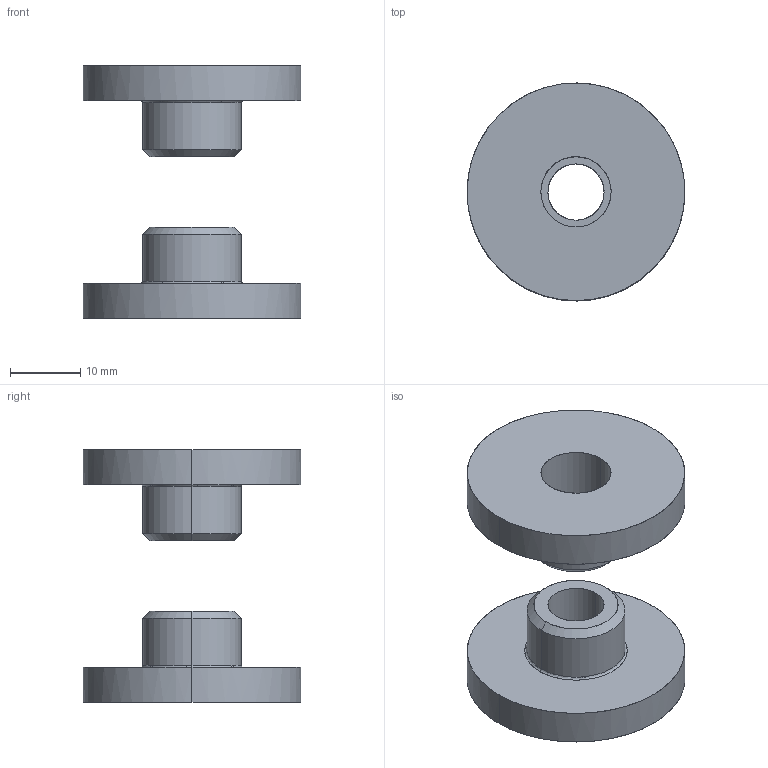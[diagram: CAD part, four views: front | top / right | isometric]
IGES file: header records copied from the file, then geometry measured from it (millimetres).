
Global section: file name: E:\UnigraphicsGraphicData\MISUMI_PRESS-PARTS\IGES\3d_wunt30-13_00806_r00.igs; native system: NX V5.0; preprocessor: UGS NX IGES V5.0; author: MISUMI; date: 20110105.163520; units: millimetre
Bounding box: 31 x 31 x 36 mm (x, y, z)
Surface area: 5108.2 mm2 (no closed solid volume)
Topology: 0 solids, 0 shells, 26 faces, 208 edges, 208 vertices
Faces by surface type: bspline 26
